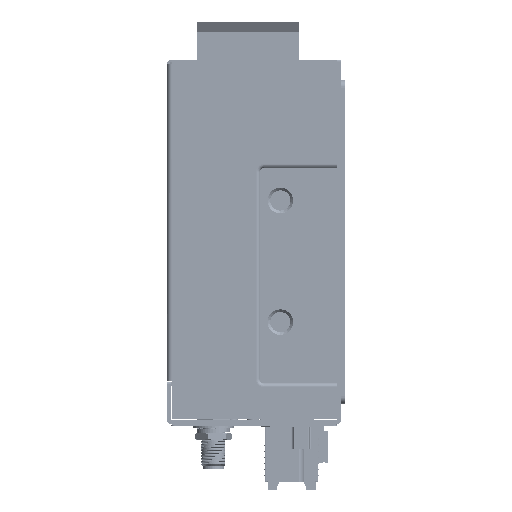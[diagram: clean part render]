
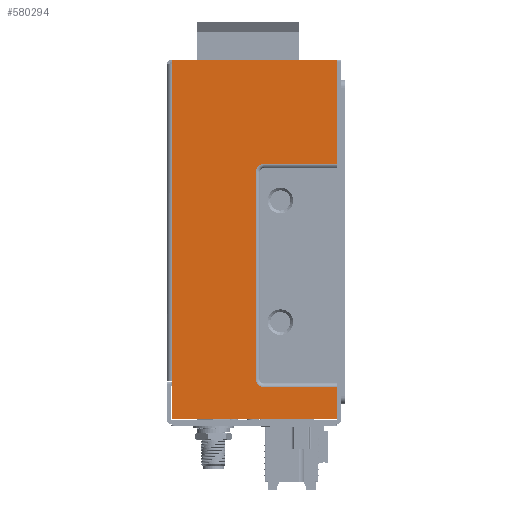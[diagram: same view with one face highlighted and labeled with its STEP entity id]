
A CAD part, left-side view. The second image highlights one B-rep face of the part: STEP entity #580294.
In plain terms, the highlighted planar face has unit normal (-1, 0, 0).
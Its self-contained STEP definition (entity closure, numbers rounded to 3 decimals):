
#9602 = DIRECTION ( 'NONE',  ( 0., 1., 0. ) ) ;
#10137 = VECTOR ( 'NONE', #533485, 1000. ) ;
#18138 = PLANE ( 'NONE',  #635293 ) ;
#20894 = LINE ( 'NONE', #315155, #330661 ) ;
#22864 = DIRECTION ( 'NONE',  ( 1., 0., 0. ) ) ;
#23978 = AXIS2_PLACEMENT_3D ( 'NONE', #310282, #565168, #9602 ) ;
#32750 = CARTESIAN_POINT ( 'NONE',  ( 0., 0.75, -78.6 ) ) ;
#35915 = ORIENTED_EDGE ( 'NONE', *, *, #218859, .T. ) ;
#41154 = LINE ( 'NONE', #142420, #565585 ) ;
#45189 = CIRCLE ( 'NONE', #201582, 2. ) ;
#58521 = CARTESIAN_POINT ( 'NONE',  ( 0., 0.25, -79.1 ) ) ;
#63180 = ORIENTED_EDGE ( 'NONE', *, *, #360131, .F. ) ;
#63931 = ORIENTED_EDGE ( 'NONE', *, *, #630407, .T. ) ;
#64937 = VECTOR ( 'NONE', #193220, 1000. ) ;
#70333 = DIRECTION ( 'NONE',  ( 0., 1., 0. ) ) ;
#73445 = CARTESIAN_POINT ( 'NONE',  ( 0., 21., -51.35 ) ) ;
#83674 = EDGE_CURVE ( 'NONE', #121650, #119412, #282311, .T. ) ;
#85280 = DIRECTION ( 'NONE',  ( 0., -1., 0. ) ) ;
#86871 = CARTESIAN_POINT ( 'NONE',  ( 0., 0.25, -119.862 ) ) ;
#88409 = CARTESIAN_POINT ( 'NONE',  ( 0., 40.5, 9.15 ) ) ;
#91210 = EDGE_CURVE ( 'NONE', #450771, #627240, #582037, .T. ) ;
#101366 = ORIENTED_EDGE ( 'NONE', *, *, #584278, .F. ) ;
#109331 = CARTESIAN_POINT ( 'NONE',  ( 0., 21., 0. ) ) ;
#117567 = VERTEX_POINT ( 'NONE', #610802 ) ;
#119412 = VERTEX_POINT ( 'NONE', #147448 ) ;
#121650 = VERTEX_POINT ( 'NONE', #73445 ) ;
#127603 = EDGE_CURVE ( 'NONE', #627240, #420743, #582216, .T. ) ;
#142420 = CARTESIAN_POINT ( 'NONE',  ( 0., 41., 0. ) ) ;
#147448 = CARTESIAN_POINT ( 'NONE',  ( 0., 23., -53.35 ) ) ;
#151586 = EDGE_CURVE ( 'NONE', #577621, #485721, #366492, .T. ) ;
#152703 = CARTESIAN_POINT ( 'NONE',  ( 0., 0.25, -77.923 ) ) ;
#153211 = DIRECTION ( 'NONE',  ( -1., 0., 0. ) ) ;
#155161 = VECTOR ( 'NONE', #468909, 1000. ) ;
#157411 = CARTESIAN_POINT ( 'NONE',  ( 0., 0.75, 9.65 ) ) ;
#159108 = VECTOR ( 'NONE', #85280, 1000. ) ;
#168462 = DIRECTION ( 'NONE',  ( 1., 0., 0. ) ) ;
#179447 = EDGE_CURVE ( 'NONE', #420743, #642584, #565196, .T. ) ;
#185396 = ORIENTED_EDGE ( 'NONE', *, *, #286766, .T. ) ;
#193220 = DIRECTION ( 'NONE',  ( 0., 0., -1. ) ) ;
#197872 = ORIENTED_EDGE ( 'NONE', *, *, #564604, .T. ) ;
#199021 = VERTEX_POINT ( 'NONE', #203226 ) ;
#201582 = AXIS2_PLACEMENT_3D ( 'NONE', #470825, #22864, #268128 ) ;
#203226 = CARTESIAN_POINT ( 'NONE',  ( 0., 23., 1.65 ) ) ;
#204022 = CARTESIAN_POINT ( 'NONE',  ( 0., 41., 9.15 ) ) ;
#218859 = EDGE_CURVE ( 'NONE', #119412, #632130, #584496, .T. ) ;
#219031 = VERTEX_POINT ( 'NONE', #152703 ) ;
#220861 = AXIS2_PLACEMENT_3D ( 'NONE', #88409, #278180, #235634 ) ;
#225278 = EDGE_LOOP ( 'NONE', ( #269066, #301475, #197872, #247201, #101366, #244724, #63180, #185396, #382898, #453640, #365234, #551920, #391126, #35915, #63931, #309666 ) ) ;
#229876 = DIRECTION ( 'NONE',  ( 0., 1., 0. ) ) ;
#232181 = DIRECTION ( 'NONE',  ( -1., 0., 0. ) ) ;
#235634 = DIRECTION ( 'NONE',  ( 0., 1., 0. ) ) ;
#244724 = ORIENTED_EDGE ( 'NONE', *, *, #444784, .T. ) ;
#247201 = ORIENTED_EDGE ( 'NONE', *, *, #494367, .F. ) ;
#251561 = LINE ( 'NONE', #58521, #424536 ) ;
#262091 = CARTESIAN_POINT ( 'NONE',  ( 0., 0.25, -78.6 ) ) ;
#262141 = VECTOR ( 'NONE', #431001, 1000. ) ;
#268128 = DIRECTION ( 'NONE',  ( 0., 1., 0. ) ) ;
#269066 = ORIENTED_EDGE ( 'NONE', *, *, #127603, .T. ) ;
#269815 = CARTESIAN_POINT ( 'NONE',  ( 0., 40.5, -78.6 ) ) ;
#278180 = DIRECTION ( 'NONE',  ( -1., 0., 0. ) ) ;
#282311 = CIRCLE ( 'NONE', #428475, 2. ) ;
#286766 = EDGE_CURVE ( 'NONE', #117567, #577621, #471415, .T. ) ;
#295584 = CIRCLE ( 'NONE', #23978, 0.5 ) ;
#299963 = EDGE_CURVE ( 'NONE', #199021, #405808, #45189, .T. ) ;
#300108 = AXIS2_PLACEMENT_3D ( 'NONE', #269815, #153211, #420229 ) ;
#301475 = ORIENTED_EDGE ( 'NONE', *, *, #179447, .T. ) ;
#304361 = AXIS2_PLACEMENT_3D ( 'NONE', #32750, #232181, #431640 ) ;
#309666 = ORIENTED_EDGE ( 'NONE', *, *, #91210, .T. ) ;
#310282 = CARTESIAN_POINT ( 'NONE',  ( 0., 0.75, 9.15 ) ) ;
#312695 = CARTESIAN_POINT ( 'NONE',  ( 0., 0.25, 9.15 ) ) ;
#315155 = CARTESIAN_POINT ( 'NONE',  ( 0., 23., 1.65 ) ) ;
#329959 = VERTEX_POINT ( 'NONE', #488720 ) ;
#330661 = VECTOR ( 'NONE', #377110, 1000. ) ;
#338504 = VECTOR ( 'NONE', #461454, 1000. ) ;
#338615 = LINE ( 'NONE', #86871, #541922 ) ;
#339312 = CARTESIAN_POINT ( 'NONE',  ( 0., 0., -53.35 ) ) ;
#340278 = CARTESIAN_POINT ( 'NONE',  ( 0., 0.25, -79.1 ) ) ;
#352873 = DIRECTION ( 'NONE',  ( 0., 0., -1. ) ) ;
#360131 = EDGE_CURVE ( 'NONE', #117567, #382010, #523801, .T. ) ;
#365234 = ORIENTED_EDGE ( 'NONE', *, *, #299963, .T. ) ;
#366492 = LINE ( 'NONE', #415574, #338504 ) ;
#369295 = CARTESIAN_POINT ( 'NONE',  ( 0., 21., -0.35 ) ) ;
#369413 = VERTEX_POINT ( 'NONE', #312695 ) ;
#377110 = DIRECTION ( 'NONE',  ( 0., -1., 0. ) ) ;
#382010 = VERTEX_POINT ( 'NONE', #157411 ) ;
#382898 = ORIENTED_EDGE ( 'NONE', *, *, #151586, .T. ) ;
#391126 = ORIENTED_EDGE ( 'NONE', *, *, #83674, .T. ) ;
#405808 = VERTEX_POINT ( 'NONE', #369295 ) ;
#410591 = CARTESIAN_POINT ( 'NONE',  ( 0., 0., 0. ) ) ;
#415574 = CARTESIAN_POINT ( 'NONE',  ( 0., 41., 0. ) ) ;
#420229 = DIRECTION ( 'NONE',  ( 0., 1., 0. ) ) ;
#420743 = VERTEX_POINT ( 'NONE', #475383 ) ;
#424536 = VECTOR ( 'NONE', #352873, 1000. ) ;
#426058 = DIRECTION ( 'NONE',  ( 1., 0., 0. ) ) ;
#426238 = CARTESIAN_POINT ( 'NONE',  ( 0., 41., -53.35 ) ) ;
#428475 = AXIS2_PLACEMENT_3D ( 'NONE', #524044, #426058, #229876 ) ;
#431001 = DIRECTION ( 'NONE',  ( 0., 1., 0. ) ) ;
#431640 = DIRECTION ( 'NONE',  ( 0., 1., 0. ) ) ;
#444784 = EDGE_CURVE ( 'NONE', #369413, #382010, #295584, .T. ) ;
#450771 = VERTEX_POINT ( 'NONE', #590926 ) ;
#453640 = ORIENTED_EDGE ( 'NONE', *, *, #577055, .T. ) ;
#461454 = DIRECTION ( 'NONE',  ( 0., 0., -1. ) ) ;
#466078 = FACE_OUTER_BOUND ( 'NONE', #225278, .T. ) ;
#468909 = DIRECTION ( 'NONE',  ( 0., 0., -1. ) ) ;
#470825 = CARTESIAN_POINT ( 'NONE',  ( 0., 23., -0.35 ) ) ;
#471415 = CIRCLE ( 'NONE', #220861, 0.5 ) ;
#475306 = CARTESIAN_POINT ( 'NONE',  ( 0., 41., 1.65 ) ) ;
#475383 = CARTESIAN_POINT ( 'NONE',  ( 0., 0.75, -79.1 ) ) ;
#475588 = EDGE_CURVE ( 'NONE', #405808, #121650, #557269, .T. ) ;
#481319 = CARTESIAN_POINT ( 'NONE',  ( 0., 41., 9.65 ) ) ;
#482565 = DIRECTION ( 'NONE',  ( 0., 0., 1. ) ) ;
#485721 = VERTEX_POINT ( 'NONE', #475306 ) ;
#488720 = CARTESIAN_POINT ( 'NONE',  ( 0., 0.25, 0.15 ) ) ;
#490754 = CARTESIAN_POINT ( 'NONE',  ( 0., 0.25, 9.65 ) ) ;
#494367 = EDGE_CURVE ( 'NONE', #329959, #219031, #251561, .T. ) ;
#523801 = LINE ( 'NONE', #481319, #10137 ) ;
#524044 = CARTESIAN_POINT ( 'NONE',  ( 0., 23., -51.35 ) ) ;
#533485 = DIRECTION ( 'NONE',  ( 0., -1., 0. ) ) ;
#539728 = LINE ( 'NONE', #490754, #64937 ) ;
#541922 = VECTOR ( 'NONE', #482565, 1000. ) ;
#551920 = ORIENTED_EDGE ( 'NONE', *, *, #475588, .T. ) ;
#557269 = LINE ( 'NONE', #109331, #155161 ) ;
#564604 = EDGE_CURVE ( 'NONE', #642584, #219031, #338615, .T. ) ;
#565168 = DIRECTION ( 'NONE',  ( -1., 0., 0. ) ) ;
#565196 = CIRCLE ( 'NONE', #304361, 0.5 ) ;
#565585 = VECTOR ( 'NONE', #580652, 1000. ) ;
#577055 = EDGE_CURVE ( 'NONE', #485721, #199021, #20894, .T. ) ;
#577591 = CARTESIAN_POINT ( 'NONE',  ( 0., 40.5, -79.1 ) ) ;
#577621 = VERTEX_POINT ( 'NONE', #204022 ) ;
#580294 = ADVANCED_FACE ( 'NONE', ( #466078 ), #18138, .F. ) ;
#580652 = DIRECTION ( 'NONE',  ( 0., 0., -1. ) ) ;
#582037 = CIRCLE ( 'NONE', #300108, 0.5 ) ;
#582216 = LINE ( 'NONE', #340278, #159108 ) ;
#584278 = EDGE_CURVE ( 'NONE', #369413, #329959, #539728, .T. ) ;
#584496 = LINE ( 'NONE', #339312, #262141 ) ;
#590926 = CARTESIAN_POINT ( 'NONE',  ( 0., 41., -78.6 ) ) ;
#610802 = CARTESIAN_POINT ( 'NONE',  ( 0., 40.5, 9.65 ) ) ;
#627240 = VERTEX_POINT ( 'NONE', #577591 ) ;
#630407 = EDGE_CURVE ( 'NONE', #632130, #450771, #41154, .T. ) ;
#632130 = VERTEX_POINT ( 'NONE', #426238 ) ;
#635293 = AXIS2_PLACEMENT_3D ( 'NONE', #410591, #168462, #70333 ) ;
#642584 = VERTEX_POINT ( 'NONE', #262091 ) ;
